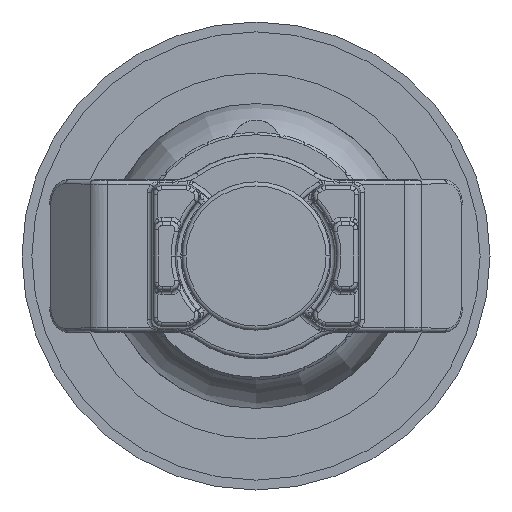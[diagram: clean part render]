
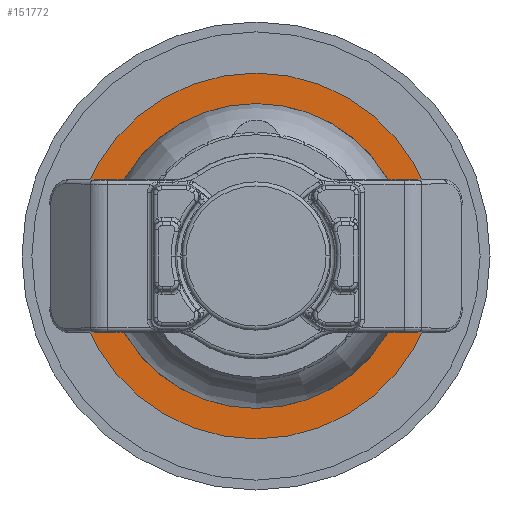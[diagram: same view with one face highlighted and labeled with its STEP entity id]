
A CAD part, front view. The second image highlights one B-rep face of the part: STEP entity #151772.
In plain terms, the highlighted planar face has unit normal (0, -1, 0).
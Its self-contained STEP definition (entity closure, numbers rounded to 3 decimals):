
#148871 = EDGE_CURVE('',#148872,#148874,#148876,.T.);
#148872 = VERTEX_POINT('',#148873);
#148873 = CARTESIAN_POINT('',(18.5,57.897,0.));
#148874 = VERTEX_POINT('',#148875);
#148875 = CARTESIAN_POINT('',(-18.5,57.897,0.)
  );
#148876 = CIRCLE('',#148877,18.5);
#148877 = AXIS2_PLACEMENT_3D('',#148878,#148879,#148880);
#148878 = CARTESIAN_POINT('',(0.,57.897,
    0.));
#148879 = DIRECTION('',(0.,-1.,-0.));
#148880 = DIRECTION('',(1.,0.,0.));
#148959 = VERTEX_POINT('',#148960);
#148960 = CARTESIAN_POINT('',(-22.2,57.897,0.)
  );
#148966 = EDGE_CURVE('',#148967,#148959,#148969,.T.);
#148967 = VERTEX_POINT('',#148968);
#148968 = CARTESIAN_POINT('',(22.2,57.897,0.));
#148969 = CIRCLE('',#148970,22.2);
#148970 = AXIS2_PLACEMENT_3D('',#148971,#148972,#148973);
#148971 = CARTESIAN_POINT('',(0.,57.897,
    0.));
#148972 = DIRECTION('',(0.,-1.,-0.));
#148973 = DIRECTION('',(1.,0.,0.));
#151761 = EDGE_CURVE('',#148959,#148967,#151762,.T.);
#151762 = CIRCLE('',#151763,22.2);
#151763 = AXIS2_PLACEMENT_3D('',#151764,#151765,#151766);
#151764 = CARTESIAN_POINT('',(0.,57.897,
    0.));
#151765 = DIRECTION('',(0.,-1.,-0.));
#151766 = DIRECTION('',(1.,0.,0.));
#151772 = ADVANCED_FACE('',(#151773,#151783),#151787,.F.);
#151773 = FACE_BOUND('',#151774,.T.);
#151774 = EDGE_LOOP('',(#151775,#151776));
#151775 = ORIENTED_EDGE('',*,*,#148871,.F.);
#151776 = ORIENTED_EDGE('',*,*,#151777,.F.);
#151777 = EDGE_CURVE('',#148874,#148872,#151778,.T.);
#151778 = CIRCLE('',#151779,18.5);
#151779 = AXIS2_PLACEMENT_3D('',#151780,#151781,#151782);
#151780 = CARTESIAN_POINT('',(0.,57.897,
    0.));
#151781 = DIRECTION('',(0.,-1.,-0.));
#151782 = DIRECTION('',(1.,0.,0.));
#151783 = FACE_BOUND('',#151784,.T.);
#151784 = EDGE_LOOP('',(#151785,#151786));
#151785 = ORIENTED_EDGE('',*,*,#148966,.T.);
#151786 = ORIENTED_EDGE('',*,*,#151761,.T.);
#151787 = PLANE('',#151788);
#151788 = AXIS2_PLACEMENT_3D('',#151789,#151790,#151791);
#151789 = CARTESIAN_POINT('',(-22.2,57.897,0.)
  );
#151790 = DIRECTION('',(0.,1.,0.));
#151791 = DIRECTION('',(-1.,0.,0.));
